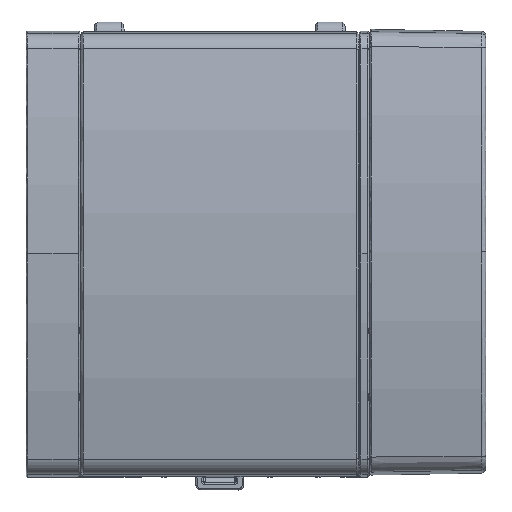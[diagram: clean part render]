
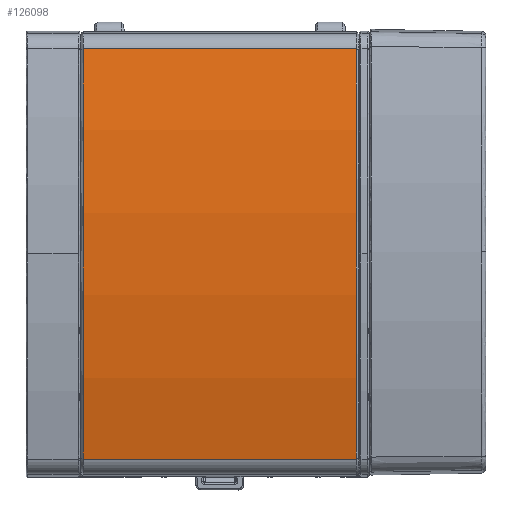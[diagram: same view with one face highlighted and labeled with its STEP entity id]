
A CAD part, top view. The second image highlights one B-rep face of the part: STEP entity #126098.
In plain terms, the highlighted cylindrical face has radius 200 mm (diameter 400 mm), a partial arc.
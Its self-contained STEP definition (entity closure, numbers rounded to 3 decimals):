
#1644 = CARTESIAN_POINT ( 'NONE',  ( 10.65, 42.914, 24.092 ) ) ;
#8691 = VERTEX_POINT ( 'NONE', #1644 ) ;
#10158 = CARTESIAN_POINT ( 'NONE',  ( 67.85, 42.914, 24.092 ) ) ;
#13519 = CARTESIAN_POINT ( 'NONE',  ( 67.85, 42.914, 24.092 ) ) ;
#15123 = AXIS2_PLACEMENT_3D ( 'NONE', #135406, #38891, #228717 ) ;
#18567 = VERTEX_POINT ( 'NONE', #13519 ) ;
#25701 = LINE ( 'NONE', #10158, #87169 ) ;
#29192 = CARTESIAN_POINT ( 'NONE',  ( 10.65, 0., -171.25 ) ) ;
#33871 = ORIENTED_EDGE ( 'NONE', *, *, #73544, .F. ) ;
#37090 = EDGE_CURVE ( 'NONE', #133640, #8691, #175161, .T. ) ;
#38891 = DIRECTION ( 'NONE',  ( -1., 0., 0. ) ) ;
#43198 = VECTOR ( 'NONE', #49718, 1000. ) ;
#49718 = DIRECTION ( 'NONE',  ( 1., 0., 0. ) ) ;
#55326 = EDGE_CURVE ( 'NONE', #133640, #172739, #213490, .T. ) ;
#61570 = DIRECTION ( 'NONE',  ( 1., 0., 0. ) ) ;
#63636 = AXIS2_PLACEMENT_3D ( 'NONE', #183648, #128586, #235110 ) ;
#73544 = EDGE_CURVE ( 'NONE', #8691, #18567, #25701, .T. ) ;
#75014 = CIRCLE ( 'NONE', #63636, 200. ) ;
#87169 = VECTOR ( 'NONE', #61570, 1000. ) ;
#99860 = EDGE_LOOP ( 'NONE', ( #122324, #137612, #132307, #33871 ) ) ;
#108052 = CARTESIAN_POINT ( 'NONE',  ( 10.65, -42.914, 24.092 ) ) ;
#122324 = ORIENTED_EDGE ( 'NONE', *, *, #37090, .F. ) ;
#126098 = ADVANCED_FACE ( 'NONE', ( #228729 ), #225199, .T. ) ;
#128586 = DIRECTION ( 'NONE',  ( 1., 0., 0. ) ) ;
#132307 = ORIENTED_EDGE ( 'NONE', *, *, #235185, .F. ) ;
#133640 = VERTEX_POINT ( 'NONE', #148911 ) ;
#135406 = CARTESIAN_POINT ( 'NONE',  ( 10.65, 0., -171.25 ) ) ;
#136622 = DIRECTION ( 'NONE',  ( 0., 1., 0. ) ) ;
#137612 = ORIENTED_EDGE ( 'NONE', *, *, #55326, .T. ) ;
#139434 = AXIS2_PLACEMENT_3D ( 'NONE', #29192, #174824, #136622 ) ;
#148911 = CARTESIAN_POINT ( 'NONE',  ( 10.65, -42.914, 24.092 ) ) ;
#172739 = VERTEX_POINT ( 'NONE', #175632 ) ;
#174824 = DIRECTION ( 'NONE',  ( 1., 0., 0. ) ) ;
#175161 = CIRCLE ( 'NONE', #15123, 200. ) ;
#175632 = CARTESIAN_POINT ( 'NONE',  ( 67.85, -42.914, 24.092 ) ) ;
#183648 = CARTESIAN_POINT ( 'NONE',  ( 67.85, 0., -171.25 ) ) ;
#213490 = LINE ( 'NONE', #108052, #43198 ) ;
#225199 = CYLINDRICAL_SURFACE ( 'NONE', #139434, 200. ) ;
#228717 = DIRECTION ( 'NONE',  ( 0., -1., 0. ) ) ;
#228729 = FACE_OUTER_BOUND ( 'NONE', #99860, .T. ) ;
#235110 = DIRECTION ( 'NONE',  ( 0., 1., 0. ) ) ;
#235185 = EDGE_CURVE ( 'NONE', #18567, #172739, #75014, .T. ) ;
